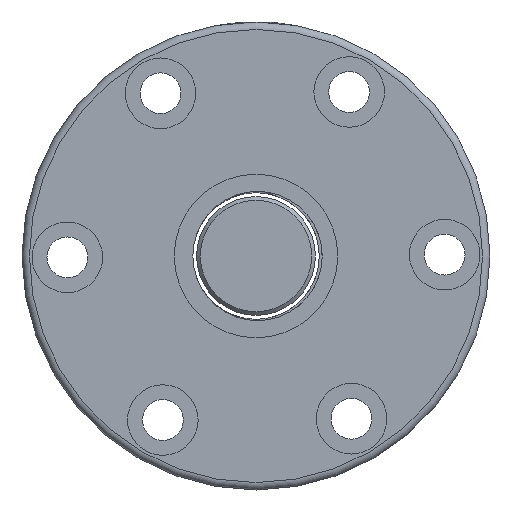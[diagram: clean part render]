
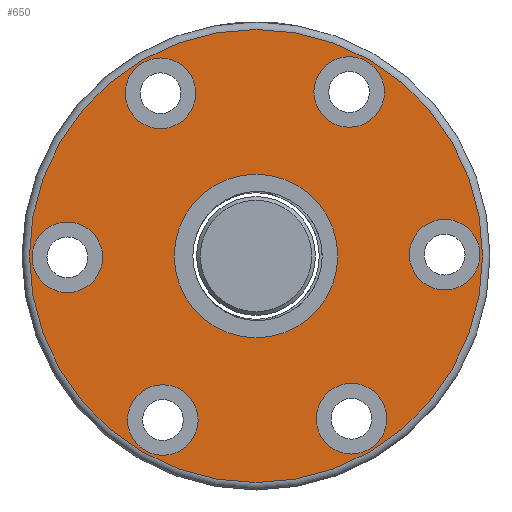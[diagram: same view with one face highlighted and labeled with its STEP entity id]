
A CAD part, left-side view. The second image highlights one B-rep face of the part: STEP entity #650.
In plain terms, the highlighted planar face has unit normal (-1, 0, 0).
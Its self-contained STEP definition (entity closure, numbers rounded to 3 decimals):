
#73=PLANE('',#765);
#157=ORIENTED_EDGE('',*,*,#238,.T.);
#158=ORIENTED_EDGE('',*,*,#266,.F.);
#159=ORIENTED_EDGE('',*,*,#259,.T.);
#160=ORIENTED_EDGE('',*,*,#255,.T.);
#161=ORIENTED_EDGE('',*,*,#251,.T.);
#162=ORIENTED_EDGE('',*,*,#247,.T.);
#163=ORIENTED_EDGE('',*,*,#243,.T.);
#164=ORIENTED_EDGE('',*,*,#239,.T.);
#238=EDGE_CURVE('',#303,#303,#355,.T.);
#239=EDGE_CURVE('',#304,#304,#356,.T.);
#243=EDGE_CURVE('',#308,#308,#360,.T.);
#247=EDGE_CURVE('',#312,#312,#364,.T.);
#251=EDGE_CURVE('',#316,#316,#368,.T.);
#255=EDGE_CURVE('',#320,#320,#372,.T.);
#259=EDGE_CURVE('',#324,#324,#376,.T.);
#266=EDGE_CURVE('',#331,#331,#383,.T.);
#303=VERTEX_POINT('',#1066);
#304=VERTEX_POINT('',#1069);
#308=VERTEX_POINT('',#1080);
#312=VERTEX_POINT('',#1091);
#316=VERTEX_POINT('',#1102);
#320=VERTEX_POINT('',#1113);
#324=VERTEX_POINT('',#1124);
#331=VERTEX_POINT('',#1144);
#355=CIRCLE('',#714,11.);
#356=CIRCLE('',#716,4.75);
#360=CIRCLE('',#723,4.75);
#364=CIRCLE('',#730,4.75);
#368=CIRCLE('',#737,4.75);
#372=CIRCLE('',#744,4.75);
#376=CIRCLE('',#751,4.75);
#383=CIRCLE('',#764,30.5);
#456=EDGE_LOOP('',(#157));
#457=EDGE_LOOP('',(#158));
#458=EDGE_LOOP('',(#159));
#459=EDGE_LOOP('',(#160));
#460=EDGE_LOOP('',(#161));
#461=EDGE_LOOP('',(#162));
#462=EDGE_LOOP('',(#163));
#463=EDGE_LOOP('',(#164));
#557=FACE_BOUND('',#456,.T.);
#558=FACE_BOUND('',#457,.T.);
#559=FACE_BOUND('',#458,.T.);
#560=FACE_BOUND('',#459,.T.);
#561=FACE_BOUND('',#460,.T.);
#562=FACE_BOUND('',#461,.T.);
#563=FACE_BOUND('',#462,.T.);
#564=FACE_BOUND('',#463,.T.);
#650=ADVANCED_FACE('',(#557,#558,#559,#560,#561,#562,#563,#564),#73,.F.);
#714=AXIS2_PLACEMENT_3D('',#1065,#836,#837);
#716=AXIS2_PLACEMENT_3D('',#1068,#840,#841);
#723=AXIS2_PLACEMENT_3D('',#1079,#854,#855);
#730=AXIS2_PLACEMENT_3D('',#1090,#868,#869);
#737=AXIS2_PLACEMENT_3D('',#1101,#882,#883);
#744=AXIS2_PLACEMENT_3D('',#1112,#896,#897);
#751=AXIS2_PLACEMENT_3D('',#1123,#910,#911);
#764=AXIS2_PLACEMENT_3D('',#1143,#936,#937);
#765=AXIS2_PLACEMENT_3D('',#1145,#938,#939);
#836=DIRECTION('',(1.,0.,0.));
#837=DIRECTION('',(0.,0.,-1.));
#840=DIRECTION('',(1.,0.,0.));
#841=DIRECTION('',(0.,-0.866,-0.5));
#854=DIRECTION('',(1.,0.,0.));
#855=DIRECTION('',(0.,-0.866,0.5));
#868=DIRECTION('',(1.,0.,0.));
#869=DIRECTION('',(0.,0.,1.));
#882=DIRECTION('',(1.,0.,0.));
#883=DIRECTION('',(0.,0.866,0.5));
#896=DIRECTION('',(1.,0.,0.));
#897=DIRECTION('',(0.,0.866,-0.5));
#910=DIRECTION('',(1.,0.,0.));
#911=DIRECTION('',(0.,0.,-1.));
#936=DIRECTION('',(1.,0.,0.));
#937=DIRECTION('',(0.,0.,-1.));
#938=DIRECTION('',(1.,0.,0.));
#939=DIRECTION('',(0.,0.,-1.));
#1065=CARTESIAN_POINT('',(-58.,0.206,0.));
#1066=CARTESIAN_POINT('',(-58.,0.206,-11.));
#1068=CARTESIAN_POINT('',(-58.,-12.647,-21.906));
#1069=CARTESIAN_POINT('',(-58.,-16.761,-24.281));
#1079=CARTESIAN_POINT('',(-58.,-25.192,0.178));
#1080=CARTESIAN_POINT('',(-58.,-29.305,2.553));
#1090=CARTESIAN_POINT('',(-58.,-12.338,22.084));
#1091=CARTESIAN_POINT('',(-58.,-12.338,26.834));
#1101=CARTESIAN_POINT('',(-58.,13.059,21.906));
#1102=CARTESIAN_POINT('',(-58.,17.173,24.281));
#1112=CARTESIAN_POINT('',(-58.,25.603,-0.178));
#1113=CARTESIAN_POINT('',(-58.,29.717,-2.553));
#1123=CARTESIAN_POINT('',(-58.,12.75,-22.084));
#1124=CARTESIAN_POINT('',(-58.,12.75,-26.834));
#1143=CARTESIAN_POINT('',(-58.,0.206,0.));
#1144=CARTESIAN_POINT('',(-58.,0.206,-30.5));
#1145=CARTESIAN_POINT('',(-58.,11.206,0.));
